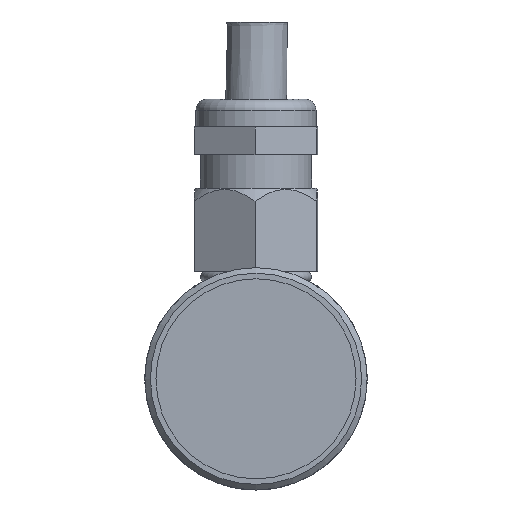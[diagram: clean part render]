
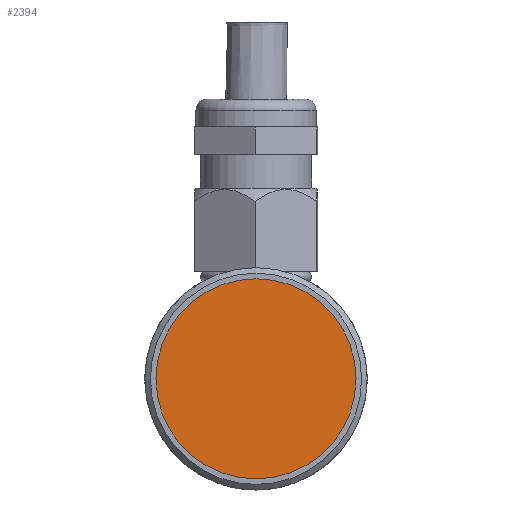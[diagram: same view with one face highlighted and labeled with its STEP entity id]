
A CAD part, left-side view. The second image highlights one B-rep face of the part: STEP entity #2394.
In plain terms, the highlighted planar face has unit normal (-1, 0, 0).
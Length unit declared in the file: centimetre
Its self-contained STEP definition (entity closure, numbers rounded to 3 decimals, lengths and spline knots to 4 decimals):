
#752=CIRCLE('',#2530,0.9);
#823=VERTEX_POINT('',#3133);
#1247=EDGE_CURVE('',#823,#823,#752,.T.);
#1537=ORIENTED_EDGE('',*,*,#1247,.T.);
#2083=EDGE_LOOP('',(#1537));
#2240=FACE_BOUND('',#2083,.T.);
#2394=ADVANCED_FACE('',(#2240),#7106,.T.);
#2530=AXIS2_PLACEMENT_3D('',#3132,#2719,#2720);
#2532=AXIS2_PLACEMENT_3D('',#3136,#2723,$);
#2719=DIRECTION('',(-1.,0.,0.));
#2720=DIRECTION('',(0.,0.,0.9));
#2723=DIRECTION('',(-1.,0.,0.));
#3132=CARTESIAN_POINT('',(0.1,0.,0.));
#3133=CARTESIAN_POINT('',(0.1,0.,0.9));
#3136=CARTESIAN_POINT('',(0.1,0.,0.));
#7106=PLANE('',#2532);
